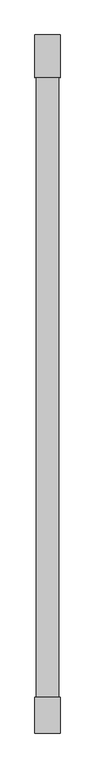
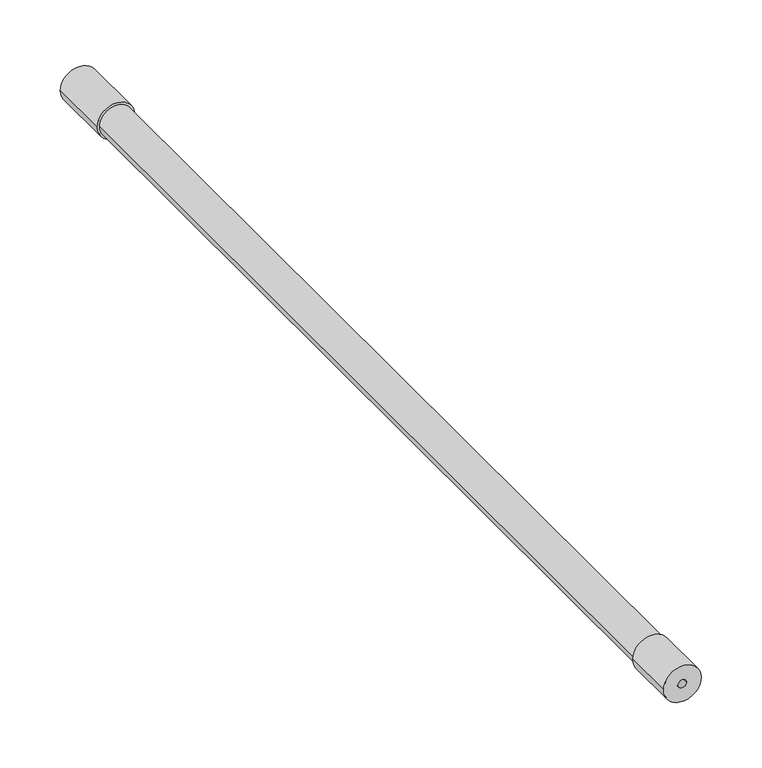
"""IFC4 building model written with IfcOpenShell, lengths in millimetres: proxy geometry, КНС_ШтангаИзоляционная_DKC : NF1000_Стеклопластик_1000 мм."""

from ifc_helpers import new_model, si_unit, point, frame, origin, origin_2d, place, context, project, spatial, circle_curve, trimmed, segment, composite_curve, outline, extrude, source, transform, mapped, element, save


def security_devices_ea8fab0d(model_context):
    return source(origin(), model_context, "Body", "SweptSolid", [
        extrude(outline(composite_curve([segment(trimmed(circle_curve(origin_2d(), 18.0), [point((0.0, -18.0))], [point((0.0, 18.0))], False, "CARTESIAN"), True, "CONTINUOUS"), segment(trimmed(circle_curve(origin_2d(), 18.0), [point((0.0, 18.0))], [point((0.0, -18.0))], False, "CARTESIAN"), True, "CONTINUOUS")], self_intersect=False), holes=[composite_curve([segment(trimmed(circle_curve(origin_2d(), 4.0), [point((0.0, -4.0))], [point((0.0, 4.0))], True, "CARTESIAN"), True, "CONTINUOUS"), segment(trimmed(circle_curve(origin_2d(), 4.0), [point((0.0, 4.0))], [point((0.0, -4.0))], True, "CARTESIAN"), True, "CONTINUOUS")], self_intersect=False)]), frame((0.0, 939.0, 0.0), z_axis=(0.0, 1.0, 0.0), x_axis=(0.0, 0.0, 1.0)), (0.0, 0.0, 1.0), 61.0),
        extrude(outline(composite_curve([segment(trimmed(circle_curve(origin_2d(), 16.0), [point((0.0, -16.0))], [point((0.0, 16.0))], False, "CARTESIAN"), True, "CONTINUOUS"), segment(trimmed(circle_curve(origin_2d(), 16.0), [point((0.0, 16.0))], [point((0.0, -16.0))], False, "CARTESIAN"), True, "CONTINUOUS")], self_intersect=False)), frame((0.0, 51.0, 0.0), z_axis=(0.0, 1.0, 0.0), x_axis=(0.0, 0.0, 1.0)), (0.0, 0.0, 1.0), 888.0),
        extrude(outline(composite_curve([segment(trimmed(circle_curve(origin_2d(), 18.0), [point((0.0, -18.0))], [point((0.0, 18.0))], False, "CARTESIAN"), True, "CONTINUOUS"), segment(trimmed(circle_curve(origin_2d(), 18.0), [point((0.0, 18.0))], [point((0.0, -18.0))], False, "CARTESIAN"), True, "CONTINUOUS")], self_intersect=False), holes=[composite_curve([segment(trimmed(circle_curve(origin_2d(), 4.0), [point((0.0, -4.0))], [point((0.0, 4.0))], True, "CARTESIAN"), True, "CONTINUOUS"), segment(trimmed(circle_curve(origin_2d(), 4.0), [point((0.0, 4.0))], [point((0.0, -4.0))], True, "CARTESIAN"), True, "CONTINUOUS")], self_intersect=False)]), frame((0.0, 0.0, 0.0), z_axis=(0.0, 1.0, 0.0), x_axis=(0.0, 0.0, 1.0)), (0.0, 0.0, 1.0), 51.0),
    ])


if __name__ == "__main__":
    model = new_model("IFC4")
    model_context = context("Model", 3, world=origin())
    ifc_project = project(units=[si_unit("LENGTHUNIT", "METRE", prefix="MILLI")], contexts=[model_context])
    site = spatial("IfcSite", under=ifc_project)
    building = spatial("IfcBuilding", under=site)
    placement = place(None, origin())
    security_devices_shape = security_devices_ea8fab0d(model_context)
    element("IfcBuildingElementProxy", 1, Name="КНС_ШтангаИзоляционная_DKC : NF1000_Стеклопластик_1000 мм", ObjectType="КНС_ШтангаИзоляционная_DKC : NF1000_Стеклопластик_1000 мм", at=placement, inside=building, context=model_context, shape_type="MappedRepresentation", body=[
        mapped(security_devices_shape, transform((0.0, 0.0, 0.0), x_axis=(1.0, 0.0, 0.0), y_axis=(0.0, 1.0, 0.0), z_axis=(0.0, 0.0, 1.0))),
    ])
    save(model, "model.ifc")
